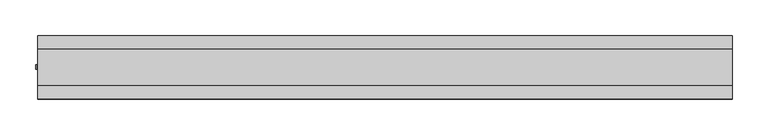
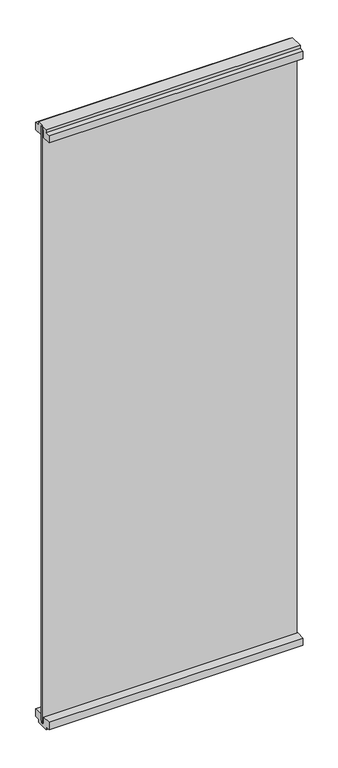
"""IFC4 building model written with IfcOpenShell, lengths in millimetres: furniture geometry, Allsteel - Aspect - Panel - 1-Way LH (11-25-24) : Allsteel - Aspect - Panel - 1-Way LH (11-25-24)."""

from ifc_helpers import new_model, si_unit, frame, origin, place, context, project, spatial, polyline, outline, extrude, source, transform, mapped, element, save


def furniture_dd6beef7(model_context):
    return source(origin(), model_context, "Body", "SweptSolid", [
        extrude(outline(polyline([(977.10625, 3.175), (977.10625, -3.175), (0.0, -3.175), (0.0, 3.175), (977.10625, 3.175)])), frame((0.0, 0.0, 12.7), z_axis=(0.0, 0.0, 1.0), x_axis=(1.0, 0.0, 0.0)), (0.0, 0.0, 1.0), 2413.0),
        extrude(outline(polyline([(25.4, 2438.4), (25.4, 2425.7), (44.45, 2425.7), (44.45, 2395.5375), (9.525, 2395.5375), (9.525, 2425.7), (-9.525, 2425.7), (-9.525, 2395.5375), (-44.45, 2395.5375), (-44.45, 2425.7), (-25.4, 2425.7), (-25.4, 2438.4), (25.4, 2438.4)])), frame((0.0, 0.0, 0.0), z_axis=(1.0, 0.0, 0.0), x_axis=(0.0, 1.0, 0.0)), (0.0, 0.0, 1.0), 977.10625),
        extrude(outline(polyline([(-25.4, 0.0), (-25.4, 12.7), (-44.45, 12.7), (-44.45, 42.8625), (-9.525, 42.8625), (-9.525, 12.7), (9.525, 12.7), (9.525, 42.8625), (44.45, 42.8625), (44.45, 12.7), (25.4, 12.7), (25.4, 0.0), (-25.4, 0.0)])), frame((0.0, 0.0, 0.0), z_axis=(1.0, 0.0, 0.0), x_axis=(0.0, 1.0, 0.0)), (0.0, 0.0, 1.0), 977.10625),
        extrude(outline(polyline([(-1.2847077, -2.9978967), (-3.3167077, -2.9978967), (-3.3167077, 3.3521033), (-1.2847077, 3.3521033), (-1.2847077, -2.9978967)])), frame((0.0, 0.0, 22.225), z_axis=(0.0, 0.0, 1.0), x_axis=(1.0, 0.0, 0.0)), (0.0, 0.0, 1.0), 2416.175),
    ])


if __name__ == "__main__":
    model = new_model("IFC4")
    model_context = context("Model", 3, world=origin())
    ifc_project = project(units=[si_unit("LENGTHUNIT", "METRE", prefix="MILLI")], contexts=[model_context])
    site = spatial("IfcSite", under=ifc_project)
    building = spatial("IfcBuilding", under=site)
    placement = place(None, origin())
    furniture_shape = furniture_dd6beef7(model_context)
    element("IfcFurniture", 1, ObjectType="Allsteel - Aspect - Panel - 1-Way LH (11-25-24) : Allsteel - Aspect - Panel - 1-Way LH (11-25-24)", at=placement, inside=building, context=model_context, shape_type="MappedRepresentation", body=[
        mapped(furniture_shape, transform((0.0, 0.0, 0.0), x_axis=(1.0, 0.0, 0.0), y_axis=(0.0, 1.0, 0.0), z_axis=(0.0, 0.0, 1.0))),
    ])
    save(model, "model.ifc")
